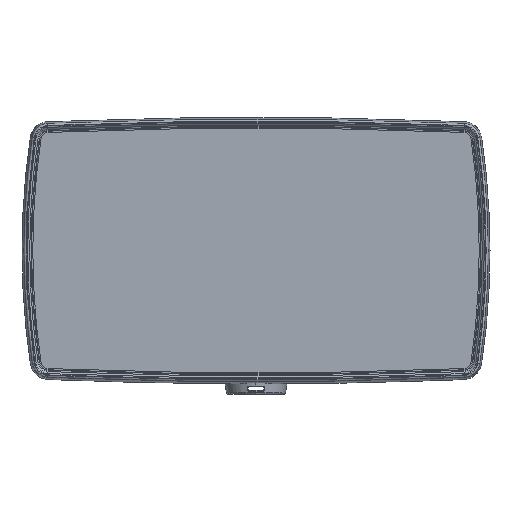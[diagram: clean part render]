
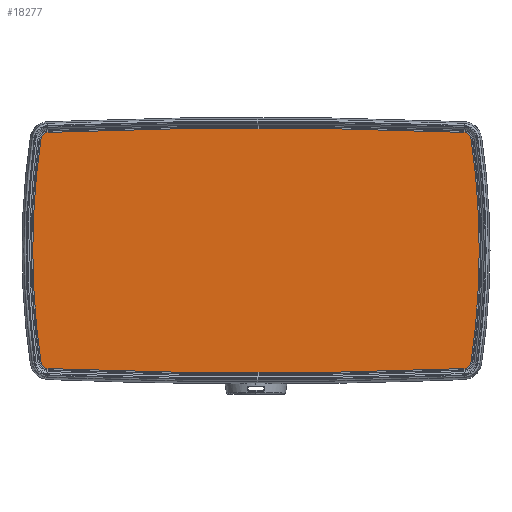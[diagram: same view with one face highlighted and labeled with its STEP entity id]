
A CAD part, top view. The second image highlights one B-rep face of the part: STEP entity #18277.
In plain terms, the highlighted planar face has unit normal (0, 0, 1).
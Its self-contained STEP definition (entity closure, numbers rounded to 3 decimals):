
#5561=CARTESIAN_POINT('',(86.372,-38.213,1.8));
#5580=CARTESIAN_POINT('',(-86.372,51.613,1.8));
#5587=CARTESIAN_POINT('',(0.,-1958.725,1.8));
#5588=DIRECTION('',(0.,0.,-1.));
#5589=DIRECTION('',(-0.041,0.999,0.));
#5590=AXIS2_PLACEMENT_3D('',#5587,#5588,#5589);
#5592=CARTESIAN_POINT('',(83.405,51.17,1.8));
#5593=DIRECTION('',(0.,0.,-1.));
#5594=DIRECTION('',(0.041,0.999,0.));
#5595=AXIS2_PLACEMENT_3D('',#5592,#5593,#5594);
#5597=CARTESIAN_POINT('',(-215.,6.7,1.8));
#5598=DIRECTION('',(0.,0.,-1.));
#5599=DIRECTION('',(0.989,0.147,0.));
#5600=AXIS2_PLACEMENT_3D('',#5597,#5598,#5599);
#5602=CARTESIAN_POINT('',(-215.,6.7,1.8));
#5603=DIRECTION('',(0.,0.,-1.));
#5604=DIRECTION('',(1.,0.,0.));
#5605=AXIS2_PLACEMENT_3D('',#5602,#5603,#5604);
#5607=CARTESIAN_POINT('',(83.405,-37.77,1.8));
#5608=DIRECTION('',(0.,0.,-1.));
#5609=DIRECTION('',(0.989,-0.148,0.));
#5610=AXIS2_PLACEMENT_3D('',#5607,#5608,#5609);
#5612=CARTESIAN_POINT('',(0.,1972.125,1.8));
#5613=DIRECTION('',(0.,0.,-1.));
#5614=DIRECTION('',(0.041,-0.999,0.));
#5615=AXIS2_PLACEMENT_3D('',#5612,#5613,#5614);
#5617=CARTESIAN_POINT('',(-83.405,-37.77,1.8));
#5618=DIRECTION('',(0.,0.,-1.));
#5619=DIRECTION('',(-0.041,-0.999,0.));
#5620=AXIS2_PLACEMENT_3D('',#5617,#5618,#5619);
#5622=CARTESIAN_POINT('',(215.,6.7,1.8));
#5623=DIRECTION('',(0.,0.,-1.));
#5624=DIRECTION('',(-0.989,-0.147,0.));
#5625=AXIS2_PLACEMENT_3D('',#5622,#5623,#5624);
#5627=CARTESIAN_POINT('',(215.,6.7,1.8));
#5628=DIRECTION('',(0.,0.,-1.));
#5629=DIRECTION('',(-1.,0.,0.));
#5630=AXIS2_PLACEMENT_3D('',#5627,#5628,#5629);
#5632=CARTESIAN_POINT('',(-83.405,51.17,1.8));
#5633=DIRECTION('',(0.,0.,-1.));
#5634=DIRECTION('',(-0.989,0.148,0.));
#5635=AXIS2_PLACEMENT_3D('',#5632,#5633,#5634);
#6598=CARTESIAN_POINT('',(83.529,54.168,1.8));
#6599=VERTEX_POINT('',#6598);
#6600=CARTESIAN_POINT('',(-83.529,54.168,1.8));
#6601=VERTEX_POINT('',#6600);
#6602=CARTESIAN_POINT('',(86.372,51.613,1.8));
#6603=VERTEX_POINT('',#6602);
#6604=VERTEX_POINT('',#5561);
#6605=CARTESIAN_POINT('',(89.7,6.7,1.8));
#6606=VERTEX_POINT('',#6605);
#6607=CARTESIAN_POINT('',(83.529,-40.768,1.8));
#6608=VERTEX_POINT('',#6607);
#6609=CARTESIAN_POINT('',(-83.529,-40.768,1.8));
#6610=VERTEX_POINT('',#6609);
#6611=CARTESIAN_POINT('',(-86.372,-38.213,1.8));
#6612=VERTEX_POINT('',#6611);
#6613=VERTEX_POINT('',#5580);
#6614=CARTESIAN_POINT('',(-89.7,6.7,1.8));
#6615=VERTEX_POINT('',#6614);
#18260=CARTESIAN_POINT('',(0.,0.,1.8));
#18261=DIRECTION('',(0.,0.,1.));
#18262=DIRECTION('',(1.,0.,0.));
#18263=AXIS2_PLACEMENT_3D('',#18260,#18261,#18262);
#18264=PLANE('',#18263);
#18265=ORIENTED_EDGE('',*,*,#18150,.T.);
#18266=ORIENTED_EDGE('',*,*,#18165,.T.);
#18267=ORIENTED_EDGE('',*,*,#18182,.T.);
#18268=ORIENTED_EDGE('',*,*,#18180,.T.);
#18269=ORIENTED_EDGE('',*,*,#18196,.T.);
#18270=ORIENTED_EDGE('',*,*,#18210,.T.);
#18271=ORIENTED_EDGE('',*,*,#18224,.T.);
#18272=ORIENTED_EDGE('',*,*,#18241,.T.);
#18273=ORIENTED_EDGE('',*,*,#18239,.T.);
#18274=ORIENTED_EDGE('',*,*,#18254,.T.);
#18275=EDGE_LOOP('',(#18265,#18266,#18267,#18268,#18269,#18270,#18271,#18272,
#18273,#18274));
#18276=FACE_OUTER_BOUND('',#18275,.F.);
#18277=ADVANCED_FACE('',(#18276),#18264,.T.);
#5591=CIRCLE('',#5590,2014.625);
#5596=CIRCLE('',#5595,3.);
#5601=CIRCLE('',#5600,304.7);
#5606=CIRCLE('',#5605,304.7);
#5611=CIRCLE('',#5610,3.);
#5616=CIRCLE('',#5615,2014.625);
#5621=CIRCLE('',#5620,3.);
#5626=CIRCLE('',#5625,304.7);
#5631=CIRCLE('',#5630,304.7);
#5636=CIRCLE('',#5635,3.);
#18150=EDGE_CURVE('',#6601,#6599,#5591,.T.);
#18165=EDGE_CURVE('',#6599,#6603,#5596,.T.);
#18180=EDGE_CURVE('',#6606,#6604,#5606,.T.);
#18182=EDGE_CURVE('',#6603,#6606,#5601,.T.);
#18196=EDGE_CURVE('',#6604,#6608,#5611,.T.);
#18210=EDGE_CURVE('',#6608,#6610,#5616,.T.);
#18224=EDGE_CURVE('',#6610,#6612,#5621,.T.);
#18239=EDGE_CURVE('',#6615,#6613,#5631,.T.);
#18241=EDGE_CURVE('',#6612,#6615,#5626,.T.);
#18254=EDGE_CURVE('',#6613,#6601,#5636,.T.);
